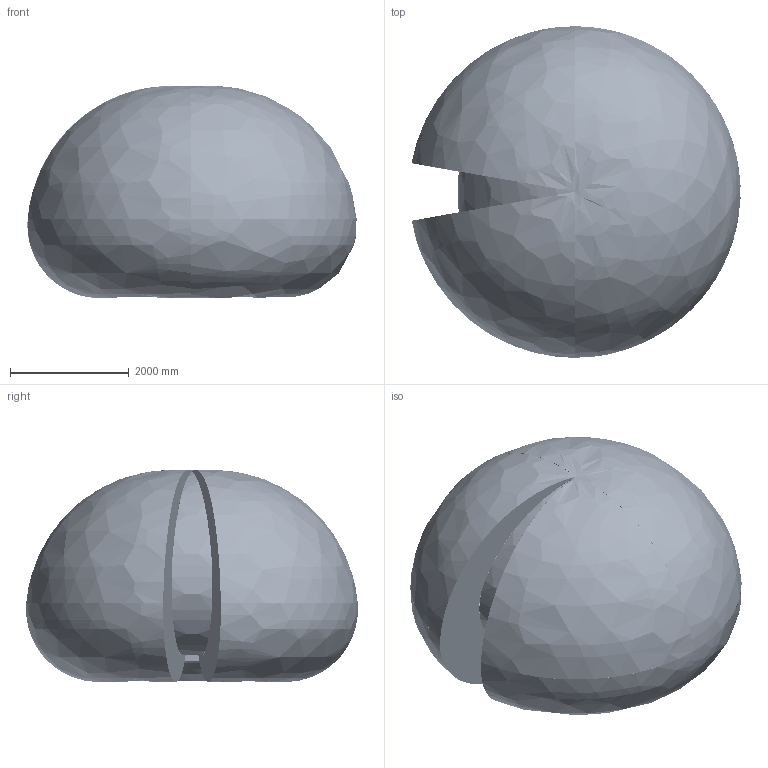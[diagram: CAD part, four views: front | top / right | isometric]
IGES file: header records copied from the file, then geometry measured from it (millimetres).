
Start section: SolidWorks IGES file using analytic representation for surfaces
Global section: file name: C:\Data\SAP_DOC\IRB6740_lightweight\6740_ASM\IRB6740_310kg-280_OC_02_SW_J\IRB6740_310kg-280_OC_02_IGES_J\IRB6740_310kg-280_OC_02_ASM_CAD.igs; native system: SolidWorks 2024; preprocessor: SolidWorks 2024; author: SEJAOLS6; date: 260506.155232; units: millimetre
Bounding box: 5549.13 x 5597.52 x 3575.99 mm (x, y, z)
Surface area: 111016868.5 mm2 (no closed solid volume)
Topology: 0 solids, 0 shells, 8598 faces, 134728 edges, 134589 vertices
Faces by surface type: bspline 4974, revolution 3624
